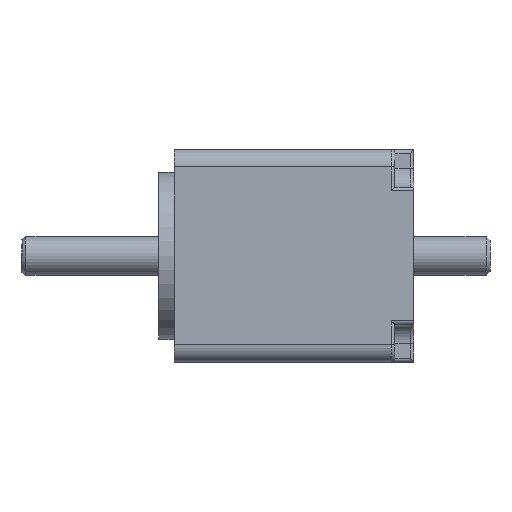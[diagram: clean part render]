
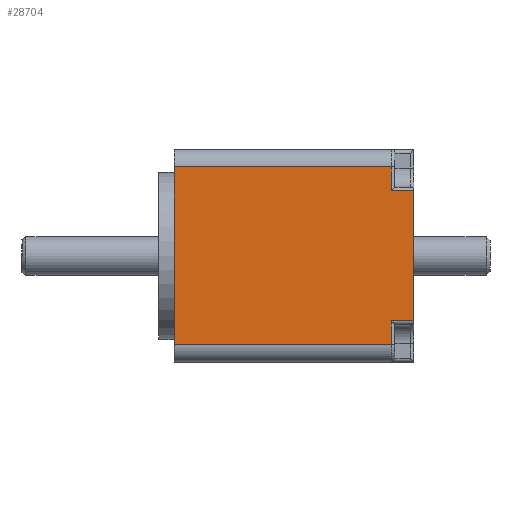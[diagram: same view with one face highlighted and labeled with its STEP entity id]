
A CAD part, top view. The second image highlights one B-rep face of the part: STEP entity #28704.
In plain terms, the highlighted planar face has unit normal (0, 0, 1).
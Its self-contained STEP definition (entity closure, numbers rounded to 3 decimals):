
#22087=CARTESIAN_POINT('',(0.,11.7,14.));
#22088=VERTEX_POINT('',#22087);
#22098=CARTESIAN_POINT('',(28.55,11.7,14.));
#22099=VERTEX_POINT('',#22098);
#22100=CARTESIAN_POINT('',(0.,11.7,14.));
#22101=DIRECTION('',(1.,0.,0.));
#22102=VECTOR('',#22101,28.55);
#22103=LINE('',#22100,#22102);
#22104=EDGE_CURVE('',#22088,#22099,#22103,.T.);
#22131=CARTESIAN_POINT('',(0.,-11.7,14.));
#22132=VERTEX_POINT('',#22131);
#22148=CARTESIAN_POINT('',(28.55,-11.7,14.));
#22149=VERTEX_POINT('',#22148);
#22157=CARTESIAN_POINT('',(0.,-11.7,14.));
#22158=DIRECTION('',(1.,0.,0.));
#22159=VECTOR('',#22158,28.55);
#22160=LINE('',#22157,#22159);
#22161=EDGE_CURVE('',#22132,#22149,#22160,.T.);
#22367=CARTESIAN_POINT('',(0.,-11.7,14.));
#22368=DIRECTION('',(0.,1.,0.));
#22369=VECTOR('',#22368,23.4);
#22370=LINE('',#22367,#22369);
#22371=EDGE_CURVE('',#22132,#22088,#22370,.T.);
#28163=CARTESIAN_POINT('',(31.55,8.55,14.));
#28164=VERTEX_POINT('',#28163);
#28171=CARTESIAN_POINT('',(31.55,-8.55,14.));
#28172=VERTEX_POINT('',#28171);
#28173=CARTESIAN_POINT('',(31.55,-8.55,14.));
#28174=DIRECTION('',(0.,1.,0.));
#28175=VECTOR('',#28174,17.1);
#28176=LINE('',#28173,#28175);
#28177=EDGE_CURVE('',#28172,#28164,#28176,.T.);
#28665=CARTESIAN_POINT('',(15.775,0.,14.));
#28666=DIRECTION('',(0.,1.,0.));
#28667=DIRECTION('',(0.,-0.,1.));
#28668=AXIS2_PLACEMENT_3D('',#28665,#28667,#28666);
#28669=PLANE('',#28668);
#28670=CARTESIAN_POINT('',(28.55,-8.55,14.));
#28671=VERTEX_POINT('',#28670);
#28672=CARTESIAN_POINT('',(28.55,-11.7,14.));
#28673=DIRECTION('',(0.,1.,0.));
#28674=VECTOR('',#28673,3.15);
#28675=LINE('',#28672,#28674);
#28676=EDGE_CURVE('',#22149,#28671,#28675,.T.);
#28677=ORIENTED_EDGE('E42903',*,*,#28676,.T.);
#28678=CARTESIAN_POINT('',(28.55,-8.55,14.));
#28679=DIRECTION('',(1.,0.,0.));
#28680=VECTOR('',#28679,3.);
#28681=LINE('',#28678,#28680);
#28682=EDGE_CURVE('',#28671,#28172,#28681,.T.);
#28683=ORIENTED_EDGE('E42904',*,*,#28682,.T.);
#28684=ORIENTED_EDGE('E42904',*,*,#28177,.T.);
#28685=CARTESIAN_POINT('',(28.55,8.55,14.));
#28686=VERTEX_POINT('',#28685);
#28687=CARTESIAN_POINT('',(31.55,8.55,14.));
#28688=DIRECTION('',(-1.,0.,0.));
#28689=VECTOR('',#28688,3.);
#28690=LINE('',#28687,#28689);
#28691=EDGE_CURVE('',#28164,#28686,#28690,.T.);
#28692=ORIENTED_EDGE('E42906',*,*,#28691,.T.);
#28693=CARTESIAN_POINT('',(28.55,8.55,14.));
#28694=DIRECTION('',(0.,1.,0.));
#28695=VECTOR('',#28694,3.15);
#28696=LINE('',#28693,#28695);
#28697=EDGE_CURVE('',#28686,#22099,#28696,.T.);
#28698=ORIENTED_EDGE('E42907',*,*,#28697,.T.);
#28699=ORIENTED_EDGE('E42907',*,*,#22104,.F.);
#28700=ORIENTED_EDGE('E42907',*,*,#22371,.F.);
#28701=ORIENTED_EDGE('E42907',*,*,#22161,.T.);
#28702=EDGE_LOOP('',(#28677,#28683,#28684,#28692,#28698,#28699,#28700,#28701));
#28703=FACE_OUTER_BOUND('',#28702,.T.);
#28704=ADVANCED_FACE('F25339',(#28703),#28669,.T.);
